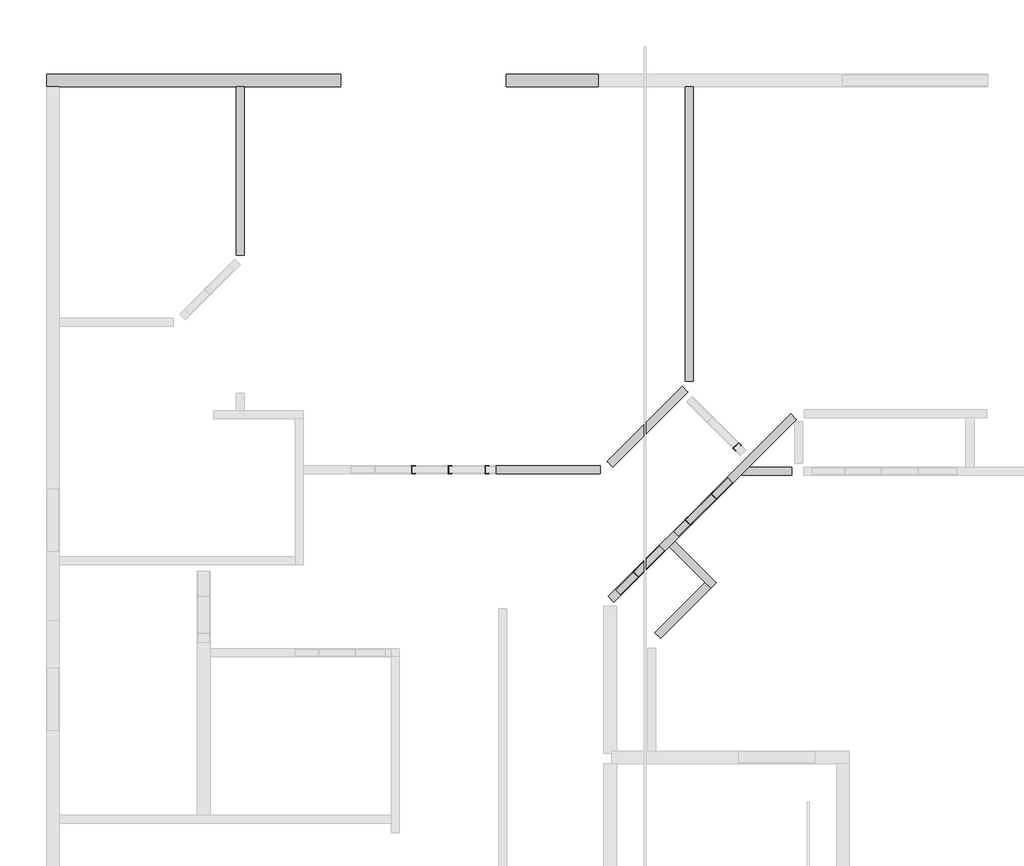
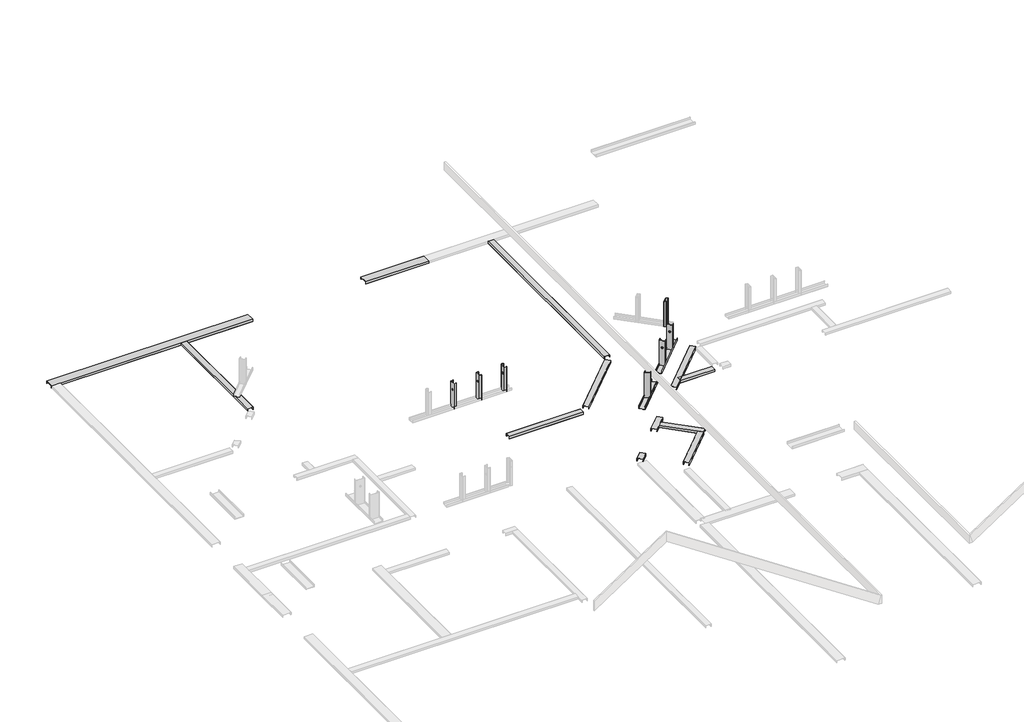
# One storey, part 3 of 4: 14 beams, 7 columns.
"""IFC4 building model written with IfcOpenShell, lengths in millimetres."""

from ifc_helpers import new_model, si_unit, point, frame, origin, place, context, project, spatial, circle_curve, ellipse_curve, trimmed, transform, mapped, element, save
from ifc_brep_helpers import plane_surface, extruded_surface, advanced_brep
from components import beam_350nf150_33_10881730, beam_350nf150_33_5259f048, beam_350nf150_33_7715317e, beam_350nf150_33_0b14d3bd, beam_350nf150_33_cdc529ae, beam_350nf150_33_bcca35cb, beam_350nf150_33_fdf4906e, beam_350nf150_33_23912f3a, beam_350nf150_33_6160dac6, beam_350nf150_33_e3974812, beam_350nf150_33_a87a63be, beam_350nf150_33_bbf778cd, beam_550nf150_43_2fd651c0, beam_550nf150_43_50ac8934, column_350nf150_33_ca50317c

model = new_model("IFC4")

# Units and contexts
model_context = context("Model", 3, world=origin())
ifc_project = project(units=[si_unit("LENGTHUNIT", "METRE", prefix="MILLI")], contexts=[model_context])

# Site, building, storey
site = spatial("IfcSite", under=ifc_project)
building = spatial("IfcBuilding", under=site)
storey = spatial("IfcBuildingStorey", under=building, Name="H.H. Level 2", Elevation=5143.5)

# Beams
placement = place(None, origin())
beam_350nf150_33_shape = beam_350nf150_33_10881730(model_context)
element("IfcBeam", 1, ObjectType="BIMSF-SSMA-S : 350NF150-33", at=placement, inside=storey, context=model_context, shape_type="MappedRepresentation", body=[
    mapped(beam_350nf150_33_shape, transform((-8163.5735524, 12239.0177158, 4292.61016), x_axis=(0.0, -1.0, 0.0), y_axis=(0.0, 0.0, 1.0), z_axis=(-1.0, 0.0, 0.0))),
])
beam_350nf150_33_2_shape = beam_350nf150_33_5259f048(model_context)
element("IfcBeam", 2, ObjectType="BIMSF-SSMA-S : 350NF150-33", at=placement, inside=storey, context=model_context, shape_type="MappedRepresentation", body=[
    mapped(beam_350nf150_33_2_shape, transform((-8006.8346733, 9220.7791894, 5111.75), x_axis=(0.7071067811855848, 0.7071067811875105, 0.0), y_axis=(0.0, 0.0, -1.0000000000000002), z_axis=(-0.7071067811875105, 0.7071067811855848, 0.0))),
])
beam_350nf150_33_3_shape = beam_350nf150_33_7715317e(model_context)
element("IfcBeam", 3, ObjectType="BIMSF-SSMA-S : 350NF150-33", at=placement, inside=storey, context=model_context, shape_type="MappedRepresentation", body=[
    mapped(beam_350nf150_33_3_shape, transform((-9739.7604385, 9633.077221, 4292.61016), x_axis=(1.0, 0.0, 0.0), y_axis=(0.0, 0.0, 1.0), z_axis=(0.0, -1.0, 0.0))),
])
beam_350nf150_33_4_shape = beam_350nf150_33_0b14d3bd(model_context)
element("IfcBeam", 4, ObjectType="BIMSF-SSMA-S : 350NF150-33", at=placement, inside=storey, context=model_context, shape_type="MappedRepresentation", body=[
    mapped(beam_350nf150_33_4_shape, transform((-13123.9913349, 12934.7090374, 4292.61016), x_axis=(0.0, -1.0, 0.0), y_axis=(0.0, 0.0, 1.0), z_axis=(-1.0, 0.0, 0.0))),
])
beam_350nf150_33_5_shape = beam_350nf150_33_cdc529ae(model_context)
element("IfcBeam", 5, ObjectType="BIMSF-SSMA-S : 350NF150-33", at=placement, inside=storey, context=model_context, shape_type="MappedRepresentation", body=[
    mapped(beam_350nf150_33_5_shape, transform((-8705.1652416, 8522.4486211, 5111.75), x_axis=(0.7071067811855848, 0.7071067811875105, 0.0), y_axis=(0.0, 0.0, -1.0000000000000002), z_axis=(-0.7071067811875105, 0.7071067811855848, 0.0))),
])
beam_350nf150_33_6_shape = beam_350nf150_33_bcca35cb(model_context)
element("IfcBeam", 6, ObjectType="BIMSF-SSMA-S : 350NF150-33", at=placement, inside=storey, context=model_context, shape_type="MappedRepresentation", body=[
    mapped(beam_350nf150_33_6_shape, transform((-8623.2388304, 10108.5679326, 4292.61016), x_axis=(0.7071067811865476, 0.7071067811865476, 0.0), y_axis=(0.0, 0.0, 1.0), z_axis=(0.7071067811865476, -0.7071067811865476, 0.0))),
])
beam_350nf150_33_7_shape = beam_350nf150_33_fdf4906e(model_context)
element("IfcBeam", 7, ObjectType="BIMSF-SSMA-S : 350NF150-33", at=placement, inside=storey, context=model_context, shape_type="MappedRepresentation", body=[
    mapped(beam_350nf150_33_7_shape, transform((-8973.177191, 8254.4366717, 4292.61016), x_axis=(0.7071067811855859, 0.7071067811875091, 0.0), y_axis=(0.0, 0.0, 1.0), z_axis=(0.7071067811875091, -0.7071067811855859, 0.0))),
])
beam_350nf150_33_8_shape = beam_350nf150_33_23912f3a(model_context)
element("IfcBeam", 8, ObjectType="BIMSF-SSMA-S : 350NF150-33", at=placement, inside=storey, context=model_context, shape_type="MappedRepresentation", body=[
    mapped(beam_350nf150_33_8_shape, transform((-8382.9407258, 8844.6731369, 4292.61016), x_axis=(0.7071067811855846, 0.7071067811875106, 0.0), y_axis=(0.0, 0.0, 1.0), z_axis=(0.7071067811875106, -0.7071067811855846, 0.0))),
])
beam_350nf150_33_9_shape = beam_350nf150_33_6160dac6(model_context)
element("IfcBeam", 9, ObjectType="BIMSF-SSMA-S : 350NF150-33", at=placement, inside=storey, context=model_context, shape_type="MappedRepresentation", body=[
    mapped(beam_350nf150_33_9_shape, transform((-7372.6754989, 9854.9383638, 4292.61016), x_axis=(0.7071067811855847, 0.7071067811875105, 0.0), y_axis=(0.0, 0.0, 1.0), z_axis=(0.7071067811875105, -0.7071067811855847, 0.0))),
])
beam_350nf150_33_10_shape = beam_350nf150_33_e3974812(model_context)
element("IfcBeam", 10, ObjectType="BIMSF-SSMA-S : 350NF150-33", at=placement, inside=storey, context=model_context, shape_type="MappedRepresentation", body=[
    mapped(beam_350nf150_33_10_shape, transform((-8232.4643379, 8079.1634004, 4292.61016), x_axis=(0.7071067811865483, 0.7071067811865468, 0.0), y_axis=(0.0, 0.0, 1.0), z_axis=(0.7071067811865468, -0.7071067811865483, 0.0))),
])
beam_350nf150_33_11_shape = beam_350nf150_33_a87a63be(model_context)
element("IfcBeam", 11, ObjectType="BIMSF-SSMA-S : 350NF150-33", at=placement, inside=storey, context=model_context, shape_type="MappedRepresentation", body=[
    mapped(beam_350nf150_33_11_shape, transform((-8122.4911484, 8584.2678593, 4292.61016), x_axis=(-0.7071067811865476, 0.7071067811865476, 0.0), y_axis=(0.0, 0.0, 1.0), z_axis=(0.7071067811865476, 0.7071067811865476, 0.0))),
])
beam_350nf150_33_12_shape = beam_350nf150_33_bbf778cd(model_context)
element("IfcBeam", 12, ObjectType="BIMSF-SSMA-S : 350NF150-33", at=placement, inside=storey, context=model_context, shape_type="MappedRepresentation", body=[
    mapped(beam_350nf150_33_12_shape, transform((-7301.6732437, 9615.2035298, 4292.61016), x_axis=(-1.0, 0.0, 0.0), y_axis=(0.0, 0.0, 1.0), z_axis=(0.0, 1.0, 0.0))),
])
beam_550nf150_43_shape = beam_550nf150_43_2fd651c0(model_context)
element("IfcBeam", 13, ObjectType="BIMSF-SSMA-S : 550NF150-43", at=placement, inside=storey, context=model_context, shape_type="MappedRepresentation", body=[
    mapped(beam_550nf150_43_shape, transform((-13638.3413349, 13935.202221, 4292.61016), x_axis=(1.0, 0.0, 0.0), y_axis=(0.0, 0.0, 1.0), z_axis=(0.0, -1.0, 0.0))),
])
beam_550nf150_43_2_shape = beam_550nf150_43_50ac8934(model_context)
element("IfcBeam", 14, ObjectType="BIMSF-SSMA-S : 550NF150-43", at=placement, inside=storey, context=model_context, shape_type="MappedRepresentation", body=[
    mapped(beam_550nf150_43_2_shape, transform((-9675.9413349, 13935.202221, 4292.61016), x_axis=(1.0, 0.0, 0.0), y_axis=(0.0, 0.0, 1.0), z_axis=(0.0, -1.0, 0.0))),
])

# Columns
element("IfcColumn", 15, ObjectType="BIMSF-SSMA-S-Column : 350NF150-33", at=placement, inside=storey, context=model_context, shape_type="AdvancedBrep", body=[
    advanced_brep(
    [(-11228.5163349, 9588.627221, 5096.7679688), (-11228.5163349, 9677.527221, 5096.7679688), (-11190.4163349, 9677.527221, 5096.7679688), (-11190.4163349, 9671.8697052, 5096.7679688), (-11191.2986507, 9671.8697052, 5096.7679688), (-11191.2986507, 9676.6449052, 5096.7679688), (-11227.6340191, 9676.6449052, 5096.7679688), (-11227.6340191, 9589.5095367, 5096.7679688), (-11191.2986507, 9589.5095367, 5096.7679688), (-11191.2986507, 9594.2847367, 5096.7679688), (-11190.4163349, 9594.2847367, 5096.7679688), (-11190.4163349, 9588.627221, 5096.7679688), (-11228.5163349, 9588.627221, 5523.6070313), (-11228.5163349, 9677.527221, 5523.6070313), (-11228.5163349, 9645.777221, 5401.5679688), (-11228.5163349, 9620.377221, 5401.5679688), (-11190.4163349, 9677.527221, 5523.6070313), (-11190.4163349, 9671.8697052, 5523.6070313), (-11191.2986507, 9671.8697052, 5523.6070313), (-11191.2986507, 9676.6449052, 5523.6070313), (-11227.6340191, 9676.6449052, 5523.6070313), (-11227.6340191, 9589.5095367, 5523.6070313), (-11227.6340191, 9620.377221, 5401.5679688), (-11227.6340191, 9645.777221, 5401.5679688), (-11191.2986507, 9589.5095367, 5523.6070313), (-11191.2986507, 9594.2847367, 5523.6070313), (-11190.4163349, 9594.2847367, 5523.6070313), (-11190.4163349, 9588.627221, 5523.6070313)],
    [
        (0, 1),
        (1, 2),
        (2, 3),
        (3, 4),
        (4, 5),
        (5, 6),
        (6, 7),
        (7, 8),
        (8, 9),
        (9, 10),
        (10, 11),
        (11, 0),
        (0, 12),
        (12, 13),
        (13, 1),
        (14, 15, circle_curve(frame((-11228.5163349, 9633.077221, 5401.5679688), z_axis=(1.0, 0.0, 0.0), x_axis=(0.0, 1.0, 0.0)), 12.7)),
        (15, 14, circle_curve(frame((-11228.5163349, 9633.077221, 5401.5679688), z_axis=(1.0, 0.0, 0.0), x_axis=(0.0, 1.0, 0.0)), 12.7)),
        (13, 16),
        (16, 2),
        (16, 17),
        (17, 3),
        (17, 18),
        (18, 4),
        (18, 19),
        (19, 5),
        (19, 20),
        (20, 6),
        (20, 21),
        (21, 7),
        (22, 23, circle_curve(frame((-11227.6340191, 9633.077221, 5401.5679688), z_axis=(-1.0, 0.0, 0.0), x_axis=(0.0, 1.0, 0.0)), 12.7)),
        (23, 22, circle_curve(frame((-11227.6340191, 9633.077221, 5401.5679688), z_axis=(-1.0, 0.0, 0.0), x_axis=(0.0, 1.0, 0.0)), 12.7)),
        (21, 24),
        (24, 8),
        (24, 25),
        (25, 9),
        (25, 26),
        (26, 10),
        (26, 27),
        (27, 11),
        (27, 12),
        (22, 15),
        (14, 23),
    ],
    [
        plane_surface(frame((-11228.5163349, 9588.627221, 5096.7679688), z_axis=(0.0, 0.0, -1.0), x_axis=(-1.0, 0.0, 0.0))),
        plane_surface(frame((-11228.5163349, 9677.527221, 5523.6070313), z_axis=(-1.0, 0.0, 0.0), x_axis=(0.0, 0.0, -1.0))),
        plane_surface(frame((-11190.4163349, 9677.527221, 5523.6070313), z_axis=(0.0, 1.0, 0.0), x_axis=(0.0, 0.0, -1.0))),
        plane_surface(frame((-11190.4163349, 9671.8697052, 5523.6070313), z_axis=(1.0, 0.0, 0.0), x_axis=(0.0, 0.0, -1.0))),
        plane_surface(frame((-11191.2986507, 9671.8697052, 5523.6070313), z_axis=(0.0, -1.0, 0.0), x_axis=(0.0, 0.0, -1.0))),
        plane_surface(frame((-11191.2986507, 9676.6449052, 5523.6070313), z_axis=(-1.0, 0.0, 0.0), x_axis=(0.0, 0.0, -1.0))),
        plane_surface(frame((-11227.6340191, 9676.6449052, 5523.6070313), z_axis=(0.0, -1.0, 0.0), x_axis=(0.0, 0.0, -1.0))),
        plane_surface(frame((-11227.6340191, 9589.5095367, 5523.6070313), z_axis=(1.0, 0.0, 0.0), x_axis=(0.0, 0.0, -1.0))),
        plane_surface(frame((-11191.2986507, 9589.5095367, 5523.6070313), z_axis=(0.0, 1.0, 0.0), x_axis=(0.0, 0.0, -1.0))),
        plane_surface(frame((-11191.2986507, 9594.2847367, 5523.6070313), z_axis=(-1.0, 0.0, 0.0), x_axis=(0.0, 0.0, -1.0))),
        plane_surface(frame((-11190.4163349, 9594.2847367, 5523.6070313), z_axis=(0.0, 1.0, 0.0), x_axis=(0.0, 0.0, -1.0))),
        plane_surface(frame((-11190.4163349, 9588.627221, 5523.6070313), z_axis=(1.0, 0.0, 0.0), x_axis=(0.0, 0.0, -1.0))),
        plane_surface(frame((-11228.5163349, 9588.627221, 5523.6070313), z_axis=(0.0, -1.0, 0.0), x_axis=(0.0, 0.0, -1.0))),
        plane_surface(frame((-11228.5163349, 9588.627221, 5523.6070313), z_axis=(0.0, 0.0, 1.0), x_axis=(1.0, 0.0, 0.0))),
        extruded_surface(trimmed(ellipse_curve(frame((-10782.6272724, 9633.077221, 5401.5679688), z_axis=(-1.0, 0.0, 0.0), x_axis=(0.0, 1.0, 0.0)), 12.7, 12.7), [point((-10782.6272724, 9620.377221, 5401.5679688))], [point((-10782.6272724, 9645.777221, 5401.5679688))], True, "CARTESIAN"), (853.6781249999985, 0.0, 0.0), 853.6781249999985),
        extruded_surface(trimmed(ellipse_curve(frame((-10782.6272724, 9633.077221, 5401.5679688), z_axis=(-1.0, 0.0, 0.0), x_axis=(0.0, 1.0, 0.0)), 12.7, 12.7), [point((-10782.6272724, 9645.777221, 5401.5679688))], [point((-10782.6272724, 9620.377221, 5401.5679688))], True, "CARTESIAN"), (853.6781249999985, 0.0, 0.0), 853.6781249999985),
    ],
    [
        (0, [[1, 2, 3, 4, 5, 6, 7, 8, 9, 10, 11, 12]]),
        (1, [[-1, 13, 14, 15], [16, 17]]),
        (2, [[-2, -15, 18, 19]]),
        (3, [[-3, -19, 20, 21]]),
        (4, [[-4, -21, 22, 23]]),
        (5, [[-5, -23, 24, 25]]),
        (6, [[-6, -25, 26, 27]]),
        (7, [[-7, -27, 28, 29], [30, 31]]),
        (8, [[-8, -29, 32, 33]]),
        (9, [[-9, -33, 34, 35]]),
        (10, [[-10, -35, 36, 37]]),
        (11, [[-11, -37, 38, 39]]),
        (12, [[-12, -39, 40, -13]]),
        (13, [[-14, -40, -38, -36, -34, -32, -28, -26, -24, -22, -20, -18]]),
        (14, [[41, -16, 42, -30]]),
        (15, [[-41, -31, -42, -17]]),
    ],
),
])
element("IfcColumn", 16, ObjectType="BIMSF-SSMA-S-Column : 350NF150-33", at=placement, inside=storey, context=model_context, shape_type="AdvancedBrep", body=[
    advanced_brep(
    [(-10822.1163349, 9588.627221, 5096.7679688), (-10822.1163349, 9677.527221, 5096.7679688), (-10784.0163349, 9677.527221, 5096.7679688), (-10784.0163349, 9671.8697052, 5096.7679688), (-10784.8986507, 9671.8697052, 5096.7679688), (-10784.8986507, 9676.6449052, 5096.7679688), (-10821.2340191, 9676.6449052, 5096.7679688), (-10821.2340191, 9589.5095367, 5096.7679688), (-10784.8986507, 9589.5095367, 5096.7679688), (-10784.8986507, 9594.2847367, 5096.7679688), (-10784.0163349, 9594.2847367, 5096.7679688), (-10784.0163349, 9588.627221, 5096.7679688), (-10822.1163349, 9588.627221, 5523.6070313), (-10822.1163349, 9677.527221, 5523.6070313), (-10822.1163349, 9645.777221, 5401.5679688), (-10822.1163349, 9620.377221, 5401.5679688), (-10784.0163349, 9677.527221, 5523.6070313), (-10784.0163349, 9671.8697052, 5523.6070313), (-10784.8986507, 9671.8697052, 5523.6070313), (-10784.8986507, 9676.6449052, 5523.6070313), (-10821.2340191, 9676.6449052, 5523.6070313), (-10821.2340191, 9589.5095367, 5523.6070313), (-10821.2340191, 9620.377221, 5401.5679688), (-10821.2340191, 9645.777221, 5401.5679688), (-10784.8986507, 9589.5095367, 5523.6070313), (-10784.8986507, 9594.2847367, 5523.6070313), (-10784.0163349, 9594.2847367, 5523.6070313), (-10784.0163349, 9588.627221, 5523.6070313)],
    [
        (0, 1),
        (1, 2),
        (2, 3),
        (3, 4),
        (4, 5),
        (5, 6),
        (6, 7),
        (7, 8),
        (8, 9),
        (9, 10),
        (10, 11),
        (11, 0),
        (0, 12),
        (12, 13),
        (13, 1),
        (14, 15, circle_curve(frame((-10822.1163349, 9633.077221, 5401.5679688), z_axis=(1.0, 0.0, 0.0), x_axis=(0.0, 1.0, 0.0)), 12.7)),
        (15, 14, circle_curve(frame((-10822.1163349, 9633.077221, 5401.5679688), z_axis=(1.0, 0.0, 0.0), x_axis=(0.0, 1.0, 0.0)), 12.7)),
        (13, 16),
        (16, 2),
        (16, 17),
        (17, 3),
        (17, 18),
        (18, 4),
        (18, 19),
        (19, 5),
        (19, 20),
        (20, 6),
        (20, 21),
        (21, 7),
        (22, 23, circle_curve(frame((-10821.2340191, 9633.077221, 5401.5679688), z_axis=(-1.0, 0.0, 0.0), x_axis=(0.0, 1.0, 0.0)), 12.7)),
        (23, 22, circle_curve(frame((-10821.2340191, 9633.077221, 5401.5679688), z_axis=(-1.0, 0.0, 0.0), x_axis=(0.0, 1.0, 0.0)), 12.7)),
        (21, 24),
        (24, 8),
        (24, 25),
        (25, 9),
        (25, 26),
        (26, 10),
        (26, 27),
        (27, 11),
        (27, 12),
        (22, 15),
        (14, 23),
    ],
    [
        plane_surface(frame((-10822.1163349, 9588.627221, 5096.7679688), z_axis=(0.0, 0.0, -1.0), x_axis=(-1.0, 0.0, 0.0))),
        plane_surface(frame((-10822.1163349, 9677.527221, 5523.6070313), z_axis=(-1.0, 0.0, 0.0), x_axis=(0.0, 0.0, -1.0))),
        plane_surface(frame((-10784.0163349, 9677.527221, 5523.6070313), z_axis=(0.0, 1.0, 0.0), x_axis=(0.0, 0.0, -1.0))),
        plane_surface(frame((-10784.0163349, 9671.8697052, 5523.6070313), z_axis=(1.0, 0.0, 0.0), x_axis=(0.0, 0.0, -1.0))),
        plane_surface(frame((-10784.8986507, 9671.8697052, 5523.6070313), z_axis=(0.0, -1.0, 0.0), x_axis=(0.0, 0.0, -1.0))),
        plane_surface(frame((-10784.8986507, 9676.6449052, 5523.6070313), z_axis=(-1.0, 0.0, 0.0), x_axis=(0.0, 0.0, -1.0))),
        plane_surface(frame((-10821.2340191, 9676.6449052, 5523.6070313), z_axis=(0.0, -1.0, 0.0), x_axis=(0.0, 0.0, -1.0))),
        plane_surface(frame((-10821.2340191, 9589.5095367, 5523.6070313), z_axis=(1.0, 0.0, 0.0), x_axis=(0.0, 0.0, -1.0))),
        plane_surface(frame((-10784.8986507, 9589.5095367, 5523.6070313), z_axis=(0.0, 1.0, 0.0), x_axis=(0.0, 0.0, -1.0))),
        plane_surface(frame((-10784.8986507, 9594.2847367, 5523.6070313), z_axis=(-1.0, 0.0, 0.0), x_axis=(0.0, 0.0, -1.0))),
        plane_surface(frame((-10784.0163349, 9594.2847367, 5523.6070313), z_axis=(0.0, 1.0, 0.0), x_axis=(0.0, 0.0, -1.0))),
        plane_surface(frame((-10784.0163349, 9588.627221, 5523.6070313), z_axis=(1.0, 0.0, 0.0), x_axis=(0.0, 0.0, -1.0))),
        plane_surface(frame((-10822.1163349, 9588.627221, 5523.6070313), z_axis=(0.0, -1.0, 0.0), x_axis=(0.0, 0.0, -1.0))),
        plane_surface(frame((-10822.1163349, 9588.627221, 5523.6070313), z_axis=(0.0, 0.0, 1.0), x_axis=(1.0, 0.0, 0.0))),
        extruded_surface(trimmed(ellipse_curve(frame((-10376.2272724, 9633.077221, 5401.5679688), z_axis=(-1.0, 0.0, 0.0), x_axis=(0.0, 1.0, 0.0)), 12.7, 12.7), [point((-10376.2272724, 9620.377221, 5401.5679688))], [point((-10376.2272724, 9645.777221, 5401.5679688))], True, "CARTESIAN"), (853.6781250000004, 0.0, 0.0), 853.6781250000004),
        extruded_surface(trimmed(ellipse_curve(frame((-10376.2272724, 9633.077221, 5401.5679688), z_axis=(-1.0, 0.0, 0.0), x_axis=(0.0, 1.0, 0.0)), 12.7, 12.7), [point((-10376.2272724, 9645.777221, 5401.5679688))], [point((-10376.2272724, 9620.377221, 5401.5679688))], True, "CARTESIAN"), (853.6781250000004, 0.0, 0.0), 853.6781250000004),
    ],
    [
        (0, [[1, 2, 3, 4, 5, 6, 7, 8, 9, 10, 11, 12]]),
        (1, [[-1, 13, 14, 15], [16, 17]]),
        (2, [[-2, -15, 18, 19]]),
        (3, [[-3, -19, 20, 21]]),
        (4, [[-4, -21, 22, 23]]),
        (5, [[-5, -23, 24, 25]]),
        (6, [[-6, -25, 26, 27]]),
        (7, [[-7, -27, 28, 29], [30, 31]]),
        (8, [[-8, -29, 32, 33]]),
        (9, [[-9, -33, 34, 35]]),
        (10, [[-10, -35, 36, 37]]),
        (11, [[-11, -37, 38, 39]]),
        (12, [[-12, -39, 40, -13]]),
        (13, [[-14, -40, -38, -36, -34, -32, -28, -26, -24, -22, -20, -18]]),
        (14, [[41, -16, 42, -30]]),
        (15, [[-41, -31, -42, -17]]),
    ],
),
])
element("IfcColumn", 17, ObjectType="BIMSF-SSMA-S-Column : 350NF150-33", at=placement, inside=storey, context=model_context, shape_type="AdvancedBrep", body=[
    advanced_brep(
    [(-10415.7163349, 9588.627221, 5096.7679688), (-10415.7163349, 9677.527221, 5096.7679688), (-10377.6163349, 9677.527221, 5096.7679688), (-10377.6163349, 9671.8697052, 5096.7679688), (-10378.4986507, 9671.8697052, 5096.7679688), (-10378.4986507, 9676.6449052, 5096.7679688), (-10414.8340191, 9676.6449052, 5096.7679688), (-10414.8340191, 9589.5095367, 5096.7679688), (-10378.4986507, 9589.5095367, 5096.7679688), (-10378.4986507, 9594.2847367, 5096.7679688), (-10377.6163349, 9594.2847367, 5096.7679688), (-10377.6163349, 9588.627221, 5096.7679688), (-10415.7163349, 9588.627221, 5523.6070313), (-10415.7163349, 9677.527221, 5523.6070313), (-10415.7163349, 9645.777221, 5401.5679688), (-10415.7163349, 9620.377221, 5401.5679688), (-10377.6163349, 9677.527221, 5523.6070313), (-10377.6163349, 9671.8697052, 5523.6070313), (-10378.4986507, 9671.8697052, 5523.6070313), (-10378.4986507, 9676.6449052, 5523.6070313), (-10414.8340191, 9676.6449052, 5523.6070313), (-10414.8340191, 9589.5095367, 5523.6070313), (-10414.8340191, 9620.377221, 5401.5679688), (-10414.8340191, 9645.777221, 5401.5679688), (-10378.4986507, 9589.5095367, 5523.6070313), (-10378.4986507, 9594.2847367, 5523.6070313), (-10377.6163349, 9594.2847367, 5523.6070313), (-10377.6163349, 9588.627221, 5523.6070313)],
    [
        (0, 1),
        (1, 2),
        (2, 3),
        (3, 4),
        (4, 5),
        (5, 6),
        (6, 7),
        (7, 8),
        (8, 9),
        (9, 10),
        (10, 11),
        (11, 0),
        (0, 12),
        (12, 13),
        (13, 1),
        (14, 15, circle_curve(frame((-10415.7163349, 9633.077221, 5401.5679688), z_axis=(1.0, 0.0, 0.0), x_axis=(0.0, 1.0, 0.0)), 12.7)),
        (15, 14, circle_curve(frame((-10415.7163349, 9633.077221, 5401.5679688), z_axis=(1.0, 0.0, 0.0), x_axis=(0.0, 1.0, 0.0)), 12.7)),
        (13, 16),
        (16, 2),
        (16, 17),
        (17, 3),
        (17, 18),
        (18, 4),
        (18, 19),
        (19, 5),
        (19, 20),
        (20, 6),
        (20, 21),
        (21, 7),
        (22, 23, circle_curve(frame((-10414.8340191, 9633.077221, 5401.5679688), z_axis=(-1.0, 0.0, 0.0), x_axis=(0.0, 1.0, 0.0)), 12.7)),
        (23, 22, circle_curve(frame((-10414.8340191, 9633.077221, 5401.5679688), z_axis=(-1.0, 0.0, 0.0), x_axis=(0.0, 1.0, 0.0)), 12.7)),
        (21, 24),
        (24, 8),
        (24, 25),
        (25, 9),
        (25, 26),
        (26, 10),
        (26, 27),
        (27, 11),
        (27, 12),
        (22, 15),
        (14, 23),
    ],
    [
        plane_surface(frame((-10415.7163349, 9588.627221, 5096.7679688), z_axis=(0.0, 0.0, -1.0), x_axis=(-1.0, 0.0, 0.0))),
        plane_surface(frame((-10415.7163349, 9677.527221, 5523.6070313), z_axis=(-1.0, 0.0, 0.0), x_axis=(0.0, 0.0, -1.0))),
        plane_surface(frame((-10377.6163349, 9677.527221, 5523.6070313), z_axis=(0.0, 1.0, 0.0), x_axis=(0.0, 0.0, -1.0))),
        plane_surface(frame((-10377.6163349, 9671.8697052, 5523.6070313), z_axis=(1.0, 0.0, 0.0), x_axis=(0.0, 0.0, -1.0))),
        plane_surface(frame((-10378.4986507, 9671.8697052, 5523.6070313), z_axis=(0.0, -1.0, 0.0), x_axis=(0.0, 0.0, -1.0))),
        plane_surface(frame((-10378.4986507, 9676.6449052, 5523.6070313), z_axis=(-1.0, 0.0, 0.0), x_axis=(0.0, 0.0, -1.0))),
        plane_surface(frame((-10414.8340191, 9676.6449052, 5523.6070313), z_axis=(0.0, -1.0, 0.0), x_axis=(0.0, 0.0, -1.0))),
        plane_surface(frame((-10414.8340191, 9589.5095367, 5523.6070313), z_axis=(1.0, 0.0, 0.0), x_axis=(0.0, 0.0, -1.0))),
        plane_surface(frame((-10378.4986507, 9589.5095367, 5523.6070313), z_axis=(0.0, 1.0, 0.0), x_axis=(0.0, 0.0, -1.0))),
        plane_surface(frame((-10378.4986507, 9594.2847367, 5523.6070313), z_axis=(-1.0, 0.0, 0.0), x_axis=(0.0, 0.0, -1.0))),
        plane_surface(frame((-10377.6163349, 9594.2847367, 5523.6070313), z_axis=(0.0, 1.0, 0.0), x_axis=(0.0, 0.0, -1.0))),
        plane_surface(frame((-10377.6163349, 9588.627221, 5523.6070313), z_axis=(1.0, 0.0, 0.0), x_axis=(0.0, 0.0, -1.0))),
        plane_surface(frame((-10415.7163349, 9588.627221, 5523.6070313), z_axis=(0.0, -1.0, 0.0), x_axis=(0.0, 0.0, -1.0))),
        plane_surface(frame((-10415.7163349, 9588.627221, 5523.6070313), z_axis=(0.0, 0.0, 1.0), x_axis=(1.0, 0.0, 0.0))),
        extruded_surface(trimmed(ellipse_curve(frame((-9969.8272724, 9633.077221, 5401.5679688), z_axis=(-1.0, 0.0, 0.0), x_axis=(0.0, 1.0, 0.0)), 12.7, 12.7), [point((-9969.8272724, 9620.377221, 5401.5679688))], [point((-9969.8272724, 9645.777221, 5401.5679688))], True, "CARTESIAN"), (853.6781250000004, 0.0, 0.0), 853.6781250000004),
        extruded_surface(trimmed(ellipse_curve(frame((-9969.8272724, 9633.077221, 5401.5679688), z_axis=(-1.0, 0.0, 0.0), x_axis=(0.0, 1.0, 0.0)), 12.7, 12.7), [point((-9969.8272724, 9645.777221, 5401.5679688))], [point((-9969.8272724, 9620.377221, 5401.5679688))], True, "CARTESIAN"), (853.6781250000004, 0.0, 0.0), 853.6781250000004),
    ],
    [
        (0, [[1, 2, 3, 4, 5, 6, 7, 8, 9, 10, 11, 12]]),
        (1, [[-1, 13, 14, 15], [16, 17]]),
        (2, [[-2, -15, 18, 19]]),
        (3, [[-3, -19, 20, 21]]),
        (4, [[-4, -21, 22, 23]]),
        (5, [[-5, -23, 24, 25]]),
        (6, [[-6, -25, 26, 27]]),
        (7, [[-7, -27, 28, 29], [30, 31]]),
        (8, [[-8, -29, 32, 33]]),
        (9, [[-9, -33, 34, 35]]),
        (10, [[-10, -35, 36, 37]]),
        (11, [[-11, -37, 38, 39]]),
        (12, [[-12, -39, 40, -13]]),
        (13, [[-14, -40, -38, -36, -34, -32, -28, -26, -24, -22, -20, -18]]),
        (14, [[41, -16, 42, -30]]),
        (15, [[-41, -31, -42, -17]]),
    ],
),
])
element("IfcColumn", 18, ObjectType="BIMSF-SSMA-S-Column : 350NF150-33", at=placement, inside=storey, context=model_context, shape_type="AdvancedBrep", body=[
    advanced_brep(
    [(-8145.5978937, 9019.1541762, 5096.7679688), (-8208.4596865, 9082.015969, 5096.7679688), (-8181.5189181, 9108.9567374, 5096.7679688), (-8177.5184504, 9104.9562696, 5096.7679688), (-8178.1423418, 9104.3323782, 5096.7679688), (-8181.5189181, 9107.7089545, 5096.7679688), (-8207.2119036, 9082.015969, 5096.7679688), (-8145.5978937, 9020.4019591, 5096.7679688), (-8119.9049083, 9046.0949446, 5096.7679688), (-8123.2814846, 9049.4715209, 5096.7679688), (-8122.6575931, 9050.0954123, 5096.7679688), (-8118.6571253, 9046.0949446, 5096.7679688), (-8145.5978937, 9019.1541762, 5523.6070313), (-8208.4596865, 9082.015969, 5523.6070313), (-8186.0090462, 9059.5653287, 5401.5679688), (-8168.048534, 9041.6048165, 5401.5679688), (-8181.5189181, 9108.9567374, 5523.6070313), (-8177.5184504, 9104.9562696, 5523.6070313), (-8178.1423418, 9104.3323782, 5523.6070313), (-8181.5189181, 9107.7089545, 5523.6070313), (-8207.2119036, 9082.015969, 5523.6070313), (-8145.5978937, 9020.4019591, 5523.6070313), (-8167.4246425, 9042.228708, 5401.5679688), (-8185.3851547, 9060.1892202, 5401.5679688), (-8119.9049083, 9046.0949446, 5523.6070313), (-8123.2814846, 9049.4715209, 5523.6070313), (-8122.6575931, 9050.0954123, 5523.6070313), (-8118.6571253, 9046.0949446, 5523.6070313)],
    [
        (0, 1),
        (1, 2),
        (2, 3),
        (3, 4),
        (4, 5),
        (5, 6),
        (6, 7),
        (7, 8),
        (8, 9),
        (9, 10),
        (10, 11),
        (11, 0),
        (0, 12),
        (12, 13),
        (13, 1),
        (14, 15, circle_curve(frame((-8177.0287901, 9050.5850726, 5401.5679688), z_axis=(0.7071067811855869, 0.7071067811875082, 0.0), x_axis=(-0.7071067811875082, 0.7071067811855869, 0.0)), 12.7)),
        (15, 14, circle_curve(frame((-8177.0287901, 9050.5850726, 5401.5679688), z_axis=(0.7071067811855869, 0.7071067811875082, 0.0), x_axis=(-0.7071067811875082, 0.7071067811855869, 0.0)), 12.7)),
        (13, 16),
        (16, 2),
        (16, 17),
        (17, 3),
        (17, 18),
        (18, 4),
        (18, 19),
        (19, 5),
        (19, 20),
        (20, 6),
        (20, 21),
        (21, 7),
        (22, 23, circle_curve(frame((-8176.4048986, 9051.2089641, 5401.5679688), z_axis=(-0.7071067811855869, -0.7071067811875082, 0.0), x_axis=(-0.7071067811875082, 0.7071067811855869, 0.0)), 12.7)),
        (23, 22, circle_curve(frame((-8176.4048986, 9051.2089641, 5401.5679687), z_axis=(-0.7071067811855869, -0.7071067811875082, 0.0), x_axis=(-0.7071067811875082, 0.7071067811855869, 0.0)), 12.7)),
        (21, 24),
        (24, 8),
        (24, 25),
        (25, 9),
        (25, 26),
        (26, 10),
        (26, 27),
        (27, 11),
        (27, 12),
        (22, 15),
        (14, 23),
    ],
    [
        plane_surface(frame((-8145.5978937, 9019.1541762, 5096.7679688), z_axis=(0.0, 0.0, -1.0000000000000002), x_axis=(-0.7071067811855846, -0.7071067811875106, 0.0))),
        plane_surface(frame((-8208.4596865, 9082.015969, 5523.6070313), z_axis=(-0.7071067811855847, -0.7071067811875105, 0.0), x_axis=(0.0, 0.0, -1.0))),
        plane_surface(frame((-8181.5189181, 9108.9567374, 5523.6070313), z_axis=(-0.7071067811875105, 0.7071067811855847, 0.0), x_axis=(0.0, 0.0, -1.0))),
        plane_surface(frame((-8177.5184504, 9104.9562696, 5523.6070313), z_axis=(0.7071067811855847, 0.7071067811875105, 0.0), x_axis=(0.0, 0.0, -1.0))),
        plane_surface(frame((-8178.1423418, 9104.3323782, 5523.6070313), z_axis=(0.7071067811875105, -0.7071067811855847, 0.0), x_axis=(0.0, 0.0, -1.0))),
        plane_surface(frame((-8181.5189181, 9107.7089545, 5523.6070313), z_axis=(-0.7071067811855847, -0.7071067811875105, 0.0), x_axis=(0.0, 0.0, -1.0))),
        plane_surface(frame((-8207.2119036, 9082.015969, 5523.6070313), z_axis=(0.7071067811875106, -0.7071067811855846, 0.0), x_axis=(0.0, 0.0, -1.0))),
        plane_surface(frame((-8145.5978937, 9020.4019591, 5523.6070313), z_axis=(0.7071067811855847, 0.7071067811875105, 0.0), x_axis=(0.0, 0.0, -1.0))),
        plane_surface(frame((-8119.9049083, 9046.0949446, 5523.6070313), z_axis=(-0.7071067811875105, 0.7071067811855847, 0.0), x_axis=(0.0, 0.0, -1.0))),
        plane_surface(frame((-8123.2814846, 9049.4715209, 5523.6070313), z_axis=(-0.7071067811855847, -0.7071067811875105, 0.0), x_axis=(0.0, 0.0, -1.0))),
        plane_surface(frame((-8122.6575931, 9050.0954123, 5523.6070313), z_axis=(-0.7071067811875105, 0.7071067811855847, 0.0), x_axis=(0.0, 0.0, -1.0))),
        plane_surface(frame((-8118.6571253, 9046.0949446, 5523.6070313), z_axis=(0.7071067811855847, 0.7071067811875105, 0.0), x_axis=(0.0, 0.0, -1.0))),
        plane_surface(frame((-8145.5978937, 9019.1541762, 5523.6070313), z_axis=(0.7071067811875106, -0.7071067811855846, 0.0), x_axis=(0.0, 0.0, -1.0))),
        plane_surface(frame((-8145.5978937, 9019.1541762, 5523.6070313), z_axis=(0.0, 0.0, 1.0000000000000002), x_axis=(0.7071067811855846, 0.7071067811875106, 0.0))),
        extruded_surface(trimmed(ellipse_curve(frame((-7861.7376103, 9365.8762524, 5401.5679688), z_axis=(-0.7071067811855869, -0.7071067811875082, 0.0), x_axis=(-0.7071067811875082, 0.7071067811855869, 0.0)), 12.7, 12.7), [point((-7852.7573542, 9356.8959963, 5401.5679688))], [point((-7870.7178665, 9374.8565085, 5401.5679688))], True, "CARTESIAN"), (603.6415910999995, 603.6415911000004, 0.0), 853.678124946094),
        extruded_surface(trimmed(ellipse_curve(frame((-7861.7376103, 9365.8762524, 5401.5679688), z_axis=(-0.7071067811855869, -0.7071067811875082, 0.0), x_axis=(-0.7071067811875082, 0.7071067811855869, 0.0)), 12.7, 12.7), [point((-7870.7178665, 9374.8565085, 5401.5679688))], [point((-7852.7573542, 9356.8959963, 5401.5679688))], True, "CARTESIAN"), (603.6415910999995, 603.6415911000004, 0.0), 853.678124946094),
    ],
    [
        (0, [[1, 2, 3, 4, 5, 6, 7, 8, 9, 10, 11, 12]]),
        (1, [[-1, 13, 14, 15], [16, 17]]),
        (2, [[-2, -15, 18, 19]]),
        (3, [[-3, -19, 20, 21]]),
        (4, [[-4, -21, 22, 23]]),
        (5, [[-5, -23, 24, 25]]),
        (6, [[-6, -25, 26, 27]]),
        (7, [[-7, -27, 28, 29], [30, 31]]),
        (8, [[-8, -29, 32, 33]]),
        (9, [[-9, -33, 34, 35]]),
        (10, [[-10, -35, 36, 37]]),
        (11, [[-11, -37, 38, 39]]),
        (12, [[-12, -39, 40, -13]]),
        (13, [[-14, -40, -38, -36, -34, -32, -28, -26, -24, -22, -20, -18]]),
        (14, [[41, -16, 42, -30]]),
        (15, [[-41, -31, -42, -17]]),
    ],
),
])
element("IfcColumn", 19, ObjectType="BIMSF-SSMA-S-Column : 350NF150-33", at=placement, inside=storey, context=model_context, shape_type="AdvancedBrep", body=[
    advanced_brep(
    [(-7858.2296978, 9306.5223721, 5096.7679688), (-7921.0914906, 9369.3841649, 5096.7679688), (-7894.1507223, 9396.3249333, 5096.7679688), (-7890.1502545, 9392.3244655, 5096.7679688), (-7890.774146, 9391.700574, 5096.7679688), (-7894.1507223, 9395.0771503, 5096.7679688), (-7919.8437077, 9369.3841649, 5096.7679688), (-7858.2296978, 9307.770155, 5096.7679688), (-7832.5367124, 9333.4631404, 5096.7679688), (-7835.9132887, 9336.8397167, 5096.7679688), (-7835.2893972, 9337.4636082, 5096.7679688), (-7831.2889294, 9333.4631404, 5096.7679688), (-7858.2296978, 9306.5223721, 5523.6070313), (-7921.0914906, 9369.3841649, 5523.6070313), (-7898.6408503, 9346.9335246, 5401.5679688), (-7880.6803381, 9328.9730124, 5401.5679688), (-7894.1507223, 9396.3249333, 5523.6070313), (-7890.1502545, 9392.3244655, 5523.6070313), (-7890.774146, 9391.700574, 5523.6070313), (-7894.1507223, 9395.0771503, 5523.6070313), (-7919.8437077, 9369.3841649, 5523.6070313), (-7858.2296978, 9307.770155, 5523.6070313), (-7880.0564466, 9329.5969038, 5401.5679688), (-7898.0169589, 9347.5574161, 5401.5679688), (-7832.5367124, 9333.4631404, 5523.6070313), (-7835.9132887, 9336.8397167, 5523.6070313), (-7835.2893972, 9337.4636082, 5523.6070313), (-7831.2889294, 9333.4631404, 5523.6070313)],
    [
        (0, 1),
        (1, 2),
        (2, 3),
        (3, 4),
        (4, 5),
        (5, 6),
        (6, 7),
        (7, 8),
        (8, 9),
        (9, 10),
        (10, 11),
        (11, 0),
        (0, 12),
        (12, 13),
        (13, 1),
        (14, 15, circle_curve(frame((-7889.6605942, 9337.9532685, 5401.5679688), z_axis=(0.7071067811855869, 0.7071067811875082, 0.0), x_axis=(-0.7071067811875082, 0.7071067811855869, 0.0)), 12.7)),
        (15, 14, circle_curve(frame((-7889.6605942, 9337.9532685, 5401.5679688), z_axis=(0.7071067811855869, 0.7071067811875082, 0.0), x_axis=(-0.7071067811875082, 0.7071067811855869, 0.0)), 12.7)),
        (13, 16),
        (16, 2),
        (16, 17),
        (17, 3),
        (17, 18),
        (18, 4),
        (18, 19),
        (19, 5),
        (19, 20),
        (20, 6),
        (20, 21),
        (21, 7),
        (22, 23, circle_curve(frame((-7889.0367027, 9338.57716, 5401.5679688), z_axis=(-0.7071067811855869, -0.7071067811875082, 0.0), x_axis=(-0.7071067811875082, 0.7071067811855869, 0.0)), 12.7)),
        (23, 22, circle_curve(frame((-7889.0367027, 9338.57716, 5401.5679688), z_axis=(-0.7071067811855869, -0.7071067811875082, 0.0), x_axis=(-0.7071067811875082, 0.7071067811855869, 0.0)), 12.7)),
        (21, 24),
        (24, 8),
        (24, 25),
        (25, 9),
        (25, 26),
        (26, 10),
        (26, 27),
        (27, 11),
        (27, 12),
        (22, 15),
        (14, 23),
    ],
    [
        plane_surface(frame((-7858.2296978, 9306.5223721, 5096.7679688), z_axis=(0.0, 0.0, -1.0000000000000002), x_axis=(-0.7071067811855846, -0.7071067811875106, 0.0))),
        plane_surface(frame((-7921.0914906, 9369.3841649, 5523.6070313), z_axis=(-0.7071067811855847, -0.7071067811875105, 0.0), x_axis=(0.0, 0.0, -1.0))),
        plane_surface(frame((-7894.1507223, 9396.3249333, 5523.6070313), z_axis=(-0.7071067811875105, 0.7071067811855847, 0.0), x_axis=(0.0, 0.0, -1.0))),
        plane_surface(frame((-7890.1502545, 9392.3244655, 5523.6070313), z_axis=(0.7071067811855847, 0.7071067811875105, 0.0), x_axis=(0.0, 0.0, -1.0))),
        plane_surface(frame((-7890.774146, 9391.700574, 5523.6070313), z_axis=(0.7071067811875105, -0.7071067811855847, 0.0), x_axis=(0.0, 0.0, -1.0))),
        plane_surface(frame((-7894.1507223, 9395.0771503, 5523.6070313), z_axis=(-0.7071067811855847, -0.7071067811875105, 0.0), x_axis=(0.0, 0.0, -1.0))),
        plane_surface(frame((-7919.8437077, 9369.3841649, 5523.6070313), z_axis=(0.7071067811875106, -0.7071067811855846, 0.0), x_axis=(0.0, 0.0, -1.0))),
        plane_surface(frame((-7858.2296978, 9307.770155, 5523.6070313), z_axis=(0.7071067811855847, 0.7071067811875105, 0.0), x_axis=(0.0, 0.0, -1.0))),
        plane_surface(frame((-7832.5367124, 9333.4631404, 5523.6070313), z_axis=(-0.7071067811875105, 0.7071067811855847, 0.0), x_axis=(0.0, 0.0, -1.0))),
        plane_surface(frame((-7835.9132887, 9336.8397167, 5523.6070313), z_axis=(-0.7071067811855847, -0.7071067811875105, 0.0), x_axis=(0.0, 0.0, -1.0))),
        plane_surface(frame((-7835.2893972, 9337.4636082, 5523.6070313), z_axis=(-0.7071067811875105, 0.7071067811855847, 0.0), x_axis=(0.0, 0.0, -1.0))),
        plane_surface(frame((-7831.2889294, 9333.4631404, 5523.6070313), z_axis=(0.7071067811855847, 0.7071067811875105, 0.0), x_axis=(0.0, 0.0, -1.0))),
        plane_surface(frame((-7858.2296978, 9306.5223721, 5523.6070313), z_axis=(0.7071067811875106, -0.7071067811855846, 0.0), x_axis=(0.0, 0.0, -1.0))),
        plane_surface(frame((-7858.2296978, 9306.5223721, 5523.6070313), z_axis=(0.0, 0.0, 1.0000000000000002), x_axis=(0.7071067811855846, 0.7071067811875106, 0.0))),
        extruded_surface(trimmed(ellipse_curve(frame((-7574.3694145, 9653.2444482, 5401.5679688), z_axis=(-0.7071067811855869, -0.7071067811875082, 0.0), x_axis=(-0.7071067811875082, 0.7071067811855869, 0.0)), 12.7, 12.7), [point((-7565.3891583, 9644.2641921, 5401.5679688))], [point((-7583.3496706, 9662.2247044, 5401.5679688))], True, "CARTESIAN"), (603.6415912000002, 603.6415912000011, 0.0), 853.6781250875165),
        extruded_surface(trimmed(ellipse_curve(frame((-7574.3694145, 9653.2444482, 5401.5679688), z_axis=(-0.7071067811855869, -0.7071067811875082, 0.0), x_axis=(-0.7071067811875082, 0.7071067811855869, 0.0)), 12.7, 12.7), [point((-7583.3496706, 9662.2247044, 5401.5679688))], [point((-7565.3891583, 9644.2641921, 5401.5679688))], True, "CARTESIAN"), (603.6415912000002, 603.6415912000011, 0.0), 853.6781250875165),
    ],
    [
        (0, [[1, 2, 3, 4, 5, 6, 7, 8, 9, 10, 11, 12]]),
        (1, [[-1, 13, 14, 15], [16, 17]]),
        (2, [[-2, -15, 18, 19]]),
        (3, [[-3, -19, 20, 21]]),
        (4, [[-4, -21, 22, 23]]),
        (5, [[-5, -23, 24, 25]]),
        (6, [[-6, -25, 26, 27]]),
        (7, [[-7, -27, 28, 29], [30, 31]]),
        (8, [[-8, -29, 32, 33]]),
        (9, [[-9, -33, 34, 35]]),
        (10, [[-10, -35, 36, 37]]),
        (11, [[-11, -37, 38, 39]]),
        (12, [[-12, -39, 40, -13]]),
        (13, [[-14, -40, -38, -36, -34, -32, -28, -26, -24, -22, -20, -18]]),
        (14, [[41, -16, 42, -30]]),
        (15, [[-41, -31, -42, -17]]),
    ],
),
])
element("IfcColumn", 20, ObjectType="BIMSF-SSMA-S-Column : 350NF150-33", at=placement, inside=storey, context=model_context, shape_type="AdvancedBrep", body=[
    advanced_brep(
    [(-7677.9684704, 9868.4444846, 5096.7679688), (-7615.1066776, 9931.3062774, 5096.7679688), (-7588.1659092, 9904.3655091, 5096.7679688), (-7592.166377, 9900.3650413, 5096.7679688), (-7592.7902685, 9900.9889327, 5096.7679688), (-7589.4136922, 9904.3655091, 5096.7679688), (-7615.1066776, 9930.0584945, 5096.7679688), (-7676.7206875, 9868.4444846, 5096.7679688), (-7651.0277021, 9842.7514992, 5096.7679688), (-7647.6511258, 9846.1280755, 5096.7679688), (-7647.0272343, 9845.504184, 5096.7679688), (-7651.0277021, 9841.5037162, 5096.7679688), (-7677.9684704, 9868.4444846, 5523.6070313), (-7615.1066776, 9931.3062774, 5523.6070313), (-7637.5573179, 9908.8556371, 5401.5679688), (-7655.5178301, 9890.8951249, 5401.5679688), (-7588.1659092, 9904.3655091, 5523.6070313), (-7592.166377, 9900.3650413, 5523.6070313), (-7592.7902685, 9900.9889327, 5523.6070313), (-7589.4136922, 9904.3655091, 5523.6070313), (-7615.1066776, 9930.0584945, 5523.6070313), (-7676.7206875, 9868.4444846, 5523.6070313), (-7654.8939387, 9890.2712334, 5401.5679688), (-7636.9334264, 9908.2317456, 5401.5679688), (-7651.0277021, 9842.7514992, 5523.6070313), (-7647.6511258, 9846.1280755, 5523.6070313), (-7647.0272343, 9845.504184, 5523.6070313), (-7651.0277021, 9841.5037162, 5523.6070313)],
    [
        (0, 1),
        (1, 2),
        (2, 3),
        (3, 4),
        (4, 5),
        (5, 6),
        (6, 7),
        (7, 8),
        (8, 9),
        (9, 10),
        (10, 11),
        (11, 0),
        (0, 12),
        (12, 13),
        (13, 1),
        (14, 15, circle_curve(frame((-7646.537574, 9899.875381, 5401.5679688), z_axis=(0.7071067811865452, -0.7071067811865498, 0.0), x_axis=(0.7071067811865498, 0.7071067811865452, 0.0)), 12.7)),
        (15, 14, circle_curve(frame((-7646.537574, 9899.875381, 5401.5679688), z_axis=(0.7071067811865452, -0.7071067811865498, 0.0), x_axis=(0.7071067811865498, 0.7071067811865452, 0.0)), 12.7)),
        (13, 16),
        (16, 2),
        (16, 17),
        (17, 3),
        (17, 18),
        (18, 4),
        (18, 19),
        (19, 5),
        (19, 20),
        (20, 6),
        (20, 21),
        (21, 7),
        (22, 23, circle_curve(frame((-7645.9136825, 9899.2514895, 5401.5679688), z_axis=(-0.7071067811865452, 0.7071067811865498, 0.0), x_axis=(0.7071067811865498, 0.7071067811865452, 0.0)), 12.7)),
        (23, 22, circle_curve(frame((-7645.9136825, 9899.2514895, 5401.5679688), z_axis=(-0.7071067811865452, 0.7071067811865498, 0.0), x_axis=(0.7071067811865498, 0.7071067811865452, 0.0)), 12.7)),
        (21, 24),
        (24, 8),
        (24, 25),
        (25, 9),
        (25, 26),
        (26, 10),
        (26, 27),
        (27, 11),
        (27, 12),
        (22, 15),
        (14, 23),
    ],
    [
        plane_surface(frame((-7677.9684704, 9868.4444846, 5096.7679688), z_axis=(0.0, 0.0, -1.0), x_axis=(-0.7071067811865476, 0.7071067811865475, 0.0))),
        plane_surface(frame((-7615.1066776, 9931.3062774, 5523.6070313), z_axis=(-0.7071067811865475, 0.7071067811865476, 0.0), x_axis=(0.0, 0.0, -1.0))),
        plane_surface(frame((-7588.1659092, 9904.3655091, 5523.6070313), z_axis=(0.7071067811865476, 0.7071067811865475, 0.0), x_axis=(0.0, 0.0, -1.0))),
        plane_surface(frame((-7592.166377, 9900.3650413, 5523.6070313), z_axis=(0.7071067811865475, -0.7071067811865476, 0.0), x_axis=(0.0, 0.0, -1.0))),
        plane_surface(frame((-7592.7902685, 9900.9889327, 5523.6070313), z_axis=(-0.7071067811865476, -0.7071067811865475, 0.0), x_axis=(0.0, 0.0, -1.0))),
        plane_surface(frame((-7589.4136922, 9904.3655091, 5523.6070313), z_axis=(-0.7071067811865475, 0.7071067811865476, 0.0), x_axis=(0.0, 0.0, -1.0))),
        plane_surface(frame((-7615.1066776, 9930.0584945, 5523.6070313), z_axis=(-0.7071067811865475, -0.7071067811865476, 0.0), x_axis=(0.0, 0.0, -1.0))),
        plane_surface(frame((-7676.7206875, 9868.4444846, 5523.6070313), z_axis=(0.7071067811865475, -0.7071067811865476, 0.0), x_axis=(0.0, 0.0, -1.0))),
        plane_surface(frame((-7651.0277021, 9842.7514992, 5523.6070313), z_axis=(0.7071067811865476, 0.7071067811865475, 0.0), x_axis=(0.0, 0.0, -1.0))),
        plane_surface(frame((-7647.6511258, 9846.1280755, 5523.6070313), z_axis=(-0.7071067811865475, 0.7071067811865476, 0.0), x_axis=(0.0, 0.0, -1.0))),
        plane_surface(frame((-7647.0272343, 9845.504184, 5523.6070313), z_axis=(0.7071067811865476, 0.7071067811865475, 0.0), x_axis=(0.0, 0.0, -1.0))),
        plane_surface(frame((-7651.0277021, 9841.5037162, 5523.6070313), z_axis=(0.7071067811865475, -0.7071067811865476, 0.0), x_axis=(0.0, 0.0, -1.0))),
        plane_surface(frame((-7677.9684704, 9868.4444846, 5523.6070313), z_axis=(-0.7071067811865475, -0.7071067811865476, 0.0), x_axis=(0.0, 0.0, -1.0))),
        plane_surface(frame((-7677.9684704, 9868.4444846, 5523.6070313), z_axis=(0.0, 0.0, 1.0), x_axis=(0.7071067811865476, -0.7071067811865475, 0.0))),
        extruded_surface(trimmed(ellipse_curve(frame((-7331.2463943, 9584.5842012, 5401.5679688), z_axis=(-0.7071067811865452, 0.7071067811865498, 0.0), x_axis=(0.7071067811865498, 0.7071067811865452, 0.0)), 12.7, 12.7), [point((-7340.2266504, 9575.6039451, 5401.5679688))], [point((-7322.2661381, 9593.5644574, 5401.5679688))], True, "CARTESIAN"), (603.6415912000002, -603.6415910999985, 0.0), 853.678125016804),
        extruded_surface(trimmed(ellipse_curve(frame((-7331.2463943, 9584.5842012, 5401.5679688), z_axis=(-0.7071067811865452, 0.7071067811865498, 0.0), x_axis=(0.7071067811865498, 0.7071067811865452, 0.0)), 12.7, 12.7), [point((-7322.2661381, 9593.5644574, 5401.5679688))], [point((-7340.2266504, 9575.6039451, 5401.5679688))], True, "CARTESIAN"), (603.6415912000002, -603.6415910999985, 0.0), 853.678125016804),
    ],
    [
        (0, [[1, 2, 3, 4, 5, 6, 7, 8, 9, 10, 11, 12]]),
        (1, [[-1, 13, 14, 15], [16, 17]]),
        (2, [[-2, -15, 18, 19]]),
        (3, [[-3, -19, 20, 21]]),
        (4, [[-4, -21, 22, 23]]),
        (5, [[-5, -23, 24, 25]]),
        (6, [[-6, -25, 26, 27]]),
        (7, [[-7, -27, 28, 29], [30, 31]]),
        (8, [[-8, -29, 32, 33]]),
        (9, [[-9, -33, 34, 35]]),
        (10, [[-10, -35, 36, 37]]),
        (11, [[-11, -37, 38, 39]]),
        (12, [[-12, -39, 40, -13]]),
        (13, [[-14, -40, -38, -36, -34, -32, -28, -26, -24, -22, -20, -18]]),
        (14, [[41, -16, 42, -30]]),
        (15, [[-41, -31, -42, -17]]),
    ],
),
])
column_350nf150_33_shape = column_350nf150_33_ca50317c(model_context)
element("IfcColumn", 21, ObjectType="BIMSF-SSMA-S-Column : 350NF150-33", at=placement, inside=storey, context=model_context, shape_type="MappedRepresentation", body=[
    mapped(column_350nf150_33_shape, transform((-8750.8737586, 8491.9246918, 0.0), x_axis=(0.7071067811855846, 0.7071067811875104, 0.0), y_axis=(-0.7071067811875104, 0.7071067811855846, 0.0), z_axis=(0.0, 0.0, 1.0))),
])

save(model, "model.ifc")
